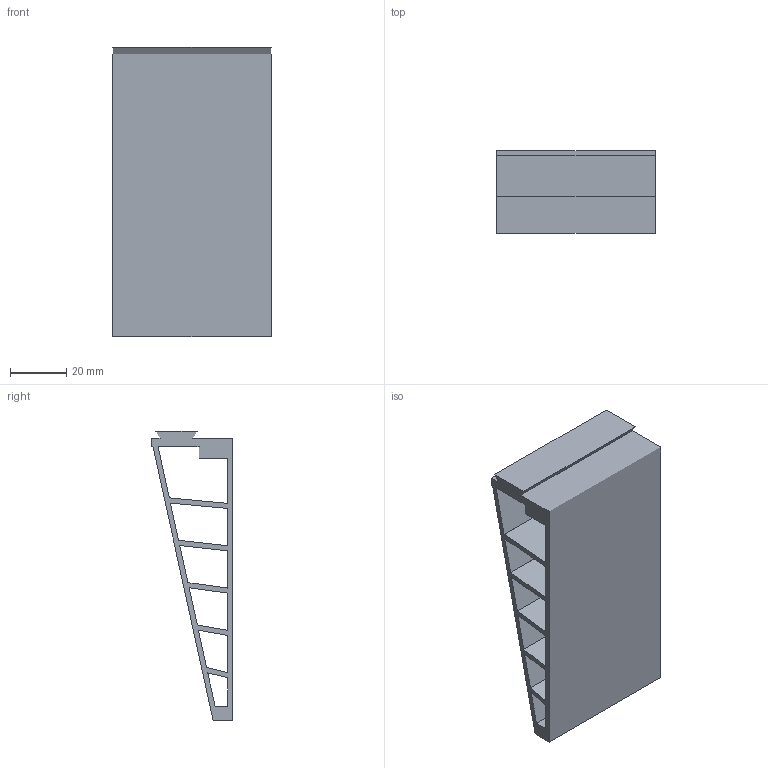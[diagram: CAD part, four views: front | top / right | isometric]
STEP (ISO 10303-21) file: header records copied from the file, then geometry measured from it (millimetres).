
FILE_DESCRIPTION(('Open CASCADE Model'),'2;1');
FILE_NAME('Open CASCADE Shape Model','2026-10-16T05:05:19',('Author'),( 'Open CASCADE'),'Open CASCADE STEP processor 7.9','Open CASCADE 7.9' ,'Unknown');
FILE_SCHEMA(('AUTOMOTIVE_DESIGN { 1 0 10303 214 1 1 1 1 }'));
Length unit declared in the file: millimetre
Products named in the file (1): Open CASCADE STEP translator 7.9 10
Bounding box: 56 x 29 x 102.4 mm (x, y, z)
Volume: 36606.6 mm3; surface area: 34078.3 mm2
Topology: 1 solids, 1 shells, 512 faces, 1530 edges, 1020 vertices
Faces by surface type: plane 512
Entity records: 35066 total; most frequent: CARTESIAN_POINT 7835, DIRECTION 3904, ORIENTED_EDGE 3060, PCURVE 3060, DEFINITIONAL_REPRESENTATION 3060, LINE 2878, VECTOR 2878, B_SPLINE_CURVE_WITH_KNOTS 1712
